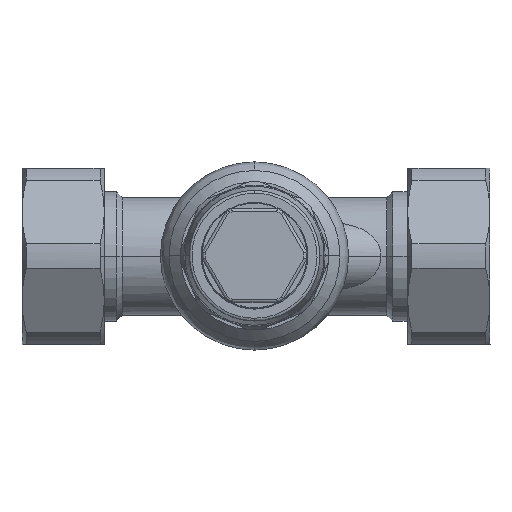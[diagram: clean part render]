
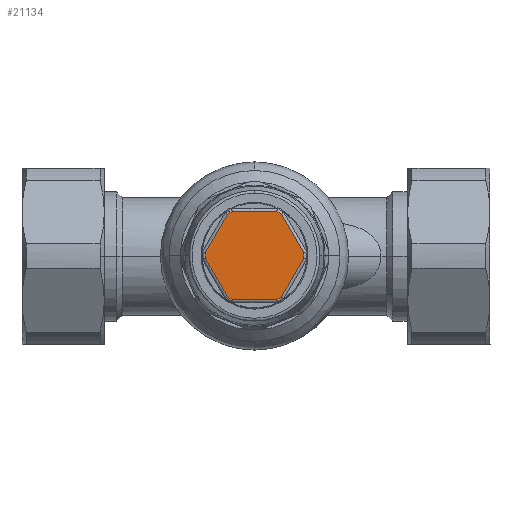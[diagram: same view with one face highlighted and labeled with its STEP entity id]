
A CAD part, top view. The second image highlights one B-rep face of the part: STEP entity #21134.
In plain terms, the highlighted planar face has unit normal (0, 0, 1).
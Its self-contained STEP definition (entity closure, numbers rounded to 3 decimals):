
#249 = CARTESIAN_POINT ( 'NONE',  ( 0.316, 8.396, 57. ) ) ;
#471 = ORIENTED_EDGE ( 'NONE', *, *, #2307, .T. ) ;
#664 = CARTESIAN_POINT ( 'NONE',  ( 7.026, 4.604, 57. ) ) ;
#832 = ORIENTED_EDGE ( 'NONE', *, *, #21967, .F. ) ;
#1037 = CARTESIAN_POINT ( 'NONE',  ( 0., 8.4, 57. ) ) ;
#1154 = CARTESIAN_POINT ( 'NONE',  ( -0.316, 8.396, 57. ) ) ;
#1197 = CARTESIAN_POINT ( 'NONE',  ( -7.026, -4.604, 57. ) ) ;
#1652 = CARTESIAN_POINT ( 'NONE',  ( -7.5, 3.783, 57. ) ) ;
#1723 = B_SPLINE_CURVE_WITH_KNOTS ( 'NONE', 3,
 ( #4020, #1798, #1924, #16198 ),
 .UNSPECIFIED., .F., .F.,
 ( 4, 4 ),
 ( 0., 1. ),
 .UNSPECIFIED. ) ;
#1798 = CARTESIAN_POINT ( 'NONE',  ( 7.199, -4.339, 57. ) ) ;
#1924 = CARTESIAN_POINT ( 'NONE',  ( 7.357, -4.065, 57. ) ) ;
#2307 = EDGE_CURVE ( 'NONE', #18473, #16533, #22985, .T. ) ;
#3186 = CARTESIAN_POINT ( 'NONE',  ( -0.158, -8.404, 57. ) ) ;
#3369 = DIRECTION ( 'NONE',  ( 0., 0., 1. ) ) ;
#3580 = ORIENTED_EDGE ( 'NONE', *, *, #5616, .T. ) ;
#4006 = CARTESIAN_POINT ( 'NONE',  ( 0.158, 8.4, 57. ) ) ;
#4020 = CARTESIAN_POINT ( 'NONE',  ( 7.026, -4.604, 57. ) ) ;
#4327 = FACE_OUTER_BOUND ( 'NONE', #7427, .T. ) ;
#4600 = CARTESIAN_POINT ( 'NONE',  ( -7.357, -4.065, 57. ) ) ;
#4710 = CARTESIAN_POINT ( 'NONE',  ( -7.199, -4.339, 57. ) ) ;
#4724 = VECTOR ( 'NONE', #13327, 1000. ) ;
#4744 = LINE ( 'NONE', #22604, #14822 ) ;
#5124 = CARTESIAN_POINT ( 'NONE',  ( 7.5, 3.783, 57. ) ) ;
#5257 = CARTESIAN_POINT ( 'NONE',  ( -0.474, -8.387, 57. ) ) ;
#5616 = EDGE_CURVE ( 'NONE', #23351, #21277, #19794, .T. ) ;
#6116 = VERTEX_POINT ( 'NONE', #16912 ) ;
#6362 = EDGE_CURVE ( 'NONE', #15462, #6116, #1723, .T. ) ;
#6402 = DIRECTION ( 'NONE',  ( 0.866, 0.5, 0. ) ) ;
#6571 = CARTESIAN_POINT ( 'NONE',  ( 7.026, 4.604, 57. ) ) ;
#6713 = VERTEX_POINT ( 'NONE', #12024 ) ;
#7015 = CARTESIAN_POINT ( 'NONE',  ( -7.026, 4.604, 57. ) ) ;
#7427 = EDGE_LOOP ( 'NONE', ( #21726, #17842, #832, #19038, #12290, #16743, #12535, #3580, #20318, #20116, #23002, #7711, #471 ) ) ;
#7432 = CARTESIAN_POINT ( 'NONE',  ( 0.474, 8.387, 57. ) ) ;
#7660 = VERTEX_POINT ( 'NONE', #7865 ) ;
#7711 = ORIENTED_EDGE ( 'NONE', *, *, #18968, .F. ) ;
#7734 = EDGE_CURVE ( 'NONE', #21277, #8650, #8777, .T. ) ;
#7865 = CARTESIAN_POINT ( 'NONE',  ( 0.474, -8.387, 57. ) ) ;
#7872 = VECTOR ( 'NONE', #20148, 1000. ) ;
#8258 = EDGE_CURVE ( 'NONE', #6713, #6116, #9906, .T. ) ;
#8590 = CARTESIAN_POINT ( 'NONE',  ( -0.158, 8.4, 57. ) ) ;
#8616 = EDGE_CURVE ( 'NONE', #9472, #8650, #4744, .T. ) ;
#8650 = VERTEX_POINT ( 'NONE', #17375 ) ;
#8777 = B_SPLINE_CURVE_WITH_KNOTS ( 'NONE', 3,
 ( #1037, #8590, #1154, #15774 ),
 .UNSPECIFIED., .F., .F.,
 ( 4, 4 ),
 ( 0.5, 1. ),
 .UNSPECIFIED. ) ;
#9021 = DIRECTION ( 'NONE',  ( 0.866, -0.5, 0. ) ) ;
#9246 = LINE ( 'NONE', #21992, #15729 ) ;
#9283 = CARTESIAN_POINT ( 'NONE',  ( -7.026, -4.604, 57. ) ) ;
#9397 = VERTEX_POINT ( 'NONE', #13309 ) ;
#9450 = B_SPLINE_CURVE_WITH_KNOTS ( 'NONE', 3,
 ( #5257, #3186, #17679, #10506 ),
 .UNSPECIFIED., .F., .F.,
 ( 4, 4 ),
 ( 0., 1. ),
 .UNSPECIFIED. ) ;
#9472 = VERTEX_POINT ( 'NONE', #7015 ) ;
#9677 = LINE ( 'NONE', #11421, #16122 ) ;
#9906 = LINE ( 'NONE', #15099, #4724 ) ;
#10185 = CARTESIAN_POINT ( 'NONE',  ( -7.5, -3.783, 57. ) ) ;
#10506 = CARTESIAN_POINT ( 'NONE',  ( 0.474, -8.387, 57. ) ) ;
#10594 = CARTESIAN_POINT ( 'NONE',  ( 0.474, 8.387, 57. ) ) ;
#11124 = VERTEX_POINT ( 'NONE', #664 ) ;
#11421 = CARTESIAN_POINT ( 'NONE',  ( 51.855, 21.278, 57. ) ) ;
#11787 = B_SPLINE_CURVE_WITH_KNOTS ( 'NONE', 3,
 ( #5124, #21336, #15437, #6571 ),
 .UNSPECIFIED., .F., .F.,
 ( 4, 4 ),
 ( 0., 1. ),
 .UNSPECIFIED. ) ;
#11958 = CARTESIAN_POINT ( 'NONE',  ( -7.5, -3.783, 57. ) ) ;
#12024 = CARTESIAN_POINT ( 'NONE',  ( 7.5, 3.783, 57. ) ) ;
#12290 = ORIENTED_EDGE ( 'NONE', *, *, #8258, .F. ) ;
#12332 = CARTESIAN_POINT ( 'NONE',  ( 8., 3.9, 57. ) ) ;
#12535 = ORIENTED_EDGE ( 'NONE', *, *, #18348, .F. ) ;
#13301 = LINE ( 'NONE', #20376, #7872 ) ;
#13309 = CARTESIAN_POINT ( 'NONE',  ( -0.474, -8.387, 57. ) ) ;
#13327 = DIRECTION ( 'NONE',  ( 0., -1., 0. ) ) ;
#14143 = CARTESIAN_POINT ( 'NONE',  ( 44.355, -34.269, 57. ) ) ;
#14381 = LINE ( 'NONE', #14143, #17666 ) ;
#14513 = EDGE_CURVE ( 'NONE', #9397, #7660, #9450, .T. ) ;
#14822 = VECTOR ( 'NONE', #6402, 1000. ) ;
#15099 = CARTESIAN_POINT ( 'NONE',  ( 7.5, 55.547, 57. ) ) ;
#15203 = EDGE_CURVE ( 'NONE', #9472, #21909, #17884, .T. ) ;
#15437 = CARTESIAN_POINT ( 'NONE',  ( 7.199, 4.339, 57. ) ) ;
#15462 = VERTEX_POINT ( 'NONE', #15466 ) ;
#15466 = CARTESIAN_POINT ( 'NONE',  ( 7.026, -4.604, 57. ) ) ;
#15729 = VECTOR ( 'NONE', #9021, 1000. ) ;
#15774 = CARTESIAN_POINT ( 'NONE',  ( -0.474, 8.387, 57. ) ) ;
#16122 = VECTOR ( 'NONE', #16628, 1000. ) ;
#16198 = CARTESIAN_POINT ( 'NONE',  ( 7.5, -3.783, 57. ) ) ;
#16416 = CARTESIAN_POINT ( 'NONE',  ( -7.5, 3.783, 57. ) ) ;
#16533 = VERTEX_POINT ( 'NONE', #9283 ) ;
#16628 = DIRECTION ( 'NONE',  ( -0.866, -0.5, 0. ) ) ;
#16743 = ORIENTED_EDGE ( 'NONE', *, *, #19543, .T. ) ;
#16912 = CARTESIAN_POINT ( 'NONE',  ( 7.5, -3.783, 57. ) ) ;
#17375 = CARTESIAN_POINT ( 'NONE',  ( -0.474, 8.387, 57. ) ) ;
#17666 = VECTOR ( 'NONE', #23148, 1000. ) ;
#17679 = CARTESIAN_POINT ( 'NONE',  ( 0.158, -8.404, 57. ) ) ;
#17842 = ORIENTED_EDGE ( 'NONE', *, *, #14513, .T. ) ;
#17884 = B_SPLINE_CURVE_WITH_KNOTS ( 'NONE', 3,
 ( #19506, #19620, #21618, #16416 ),
 .UNSPECIFIED., .F., .F.,
 ( 4, 4 ),
 ( 0., 1. ),
 .UNSPECIFIED. ) ;
#18348 = EDGE_CURVE ( 'NONE', #23351, #11124, #9246, .T. ) ;
#18473 = VERTEX_POINT ( 'NONE', #11958 ) ;
#18968 = EDGE_CURVE ( 'NONE', #18473, #21909, #13301, .T. ) ;
#19038 = ORIENTED_EDGE ( 'NONE', *, *, #6362, .T. ) ;
#19506 = CARTESIAN_POINT ( 'NONE',  ( -7.026, 4.604, 57. ) ) ;
#19543 = EDGE_CURVE ( 'NONE', #6713, #11124, #11787, .T. ) ;
#19547 = DIRECTION ( 'NONE',  ( 0., -1., 0. ) ) ;
#19620 = CARTESIAN_POINT ( 'NONE',  ( -7.199, 4.339, 57. ) ) ;
#19794 = B_SPLINE_CURVE_WITH_KNOTS ( 'NONE', 3,
 ( #7432, #249, #4006, #20089 ),
 .UNSPECIFIED., .F., .F.,
 ( 4, 4 ),
 ( 0., 0.5 ),
 .UNSPECIFIED. ) ;
#20089 = CARTESIAN_POINT ( 'NONE',  ( 0., 8.4, 57. ) ) ;
#20116 = ORIENTED_EDGE ( 'NONE', *, *, #8616, .F. ) ;
#20148 = DIRECTION ( 'NONE',  ( 0., 1., 0. ) ) ;
#20318 = ORIENTED_EDGE ( 'NONE', *, *, #7734, .T. ) ;
#20376 = CARTESIAN_POINT ( 'NONE',  ( -7.5, -55.547, 57. ) ) ;
#21134 = ADVANCED_FACE ( 'NONE', ( #4327 ), #23114, .T. ) ;
#21277 = VERTEX_POINT ( 'NONE', #23350 ) ;
#21336 = CARTESIAN_POINT ( 'NONE',  ( 7.357, 4.065, 57. ) ) ;
#21618 = CARTESIAN_POINT ( 'NONE',  ( -7.357, 4.065, 57. ) ) ;
#21726 = ORIENTED_EDGE ( 'NONE', *, *, #22987, .F. ) ;
#21909 = VERTEX_POINT ( 'NONE', #1652 ) ;
#21967 = EDGE_CURVE ( 'NONE', #15462, #7660, #9677, .T. ) ;
#21992 = CARTESIAN_POINT ( 'NONE',  ( -44.355, 34.269, 57. ) ) ;
#22552 = AXIS2_PLACEMENT_3D ( 'NONE', #12332, #3369, #19547 ) ;
#22604 = CARTESIAN_POINT ( 'NONE',  ( -51.855, -21.278, 57. ) ) ;
#22985 = B_SPLINE_CURVE_WITH_KNOTS ( 'NONE', 3,
 ( #10185, #4600, #4710, #1197 ),
 .UNSPECIFIED., .F., .F.,
 ( 4, 4 ),
 ( 0., 1. ),
 .UNSPECIFIED. ) ;
#22987 = EDGE_CURVE ( 'NONE', #9397, #16533, #14381, .T. ) ;
#23002 = ORIENTED_EDGE ( 'NONE', *, *, #15203, .T. ) ;
#23114 = PLANE ( 'NONE',  #22552 ) ;
#23148 = DIRECTION ( 'NONE',  ( -0.866, 0.5, 0. ) ) ;
#23350 = CARTESIAN_POINT ( 'NONE',  ( 0., 8.4, 57. ) ) ;
#23351 = VERTEX_POINT ( 'NONE', #10594 ) ;
